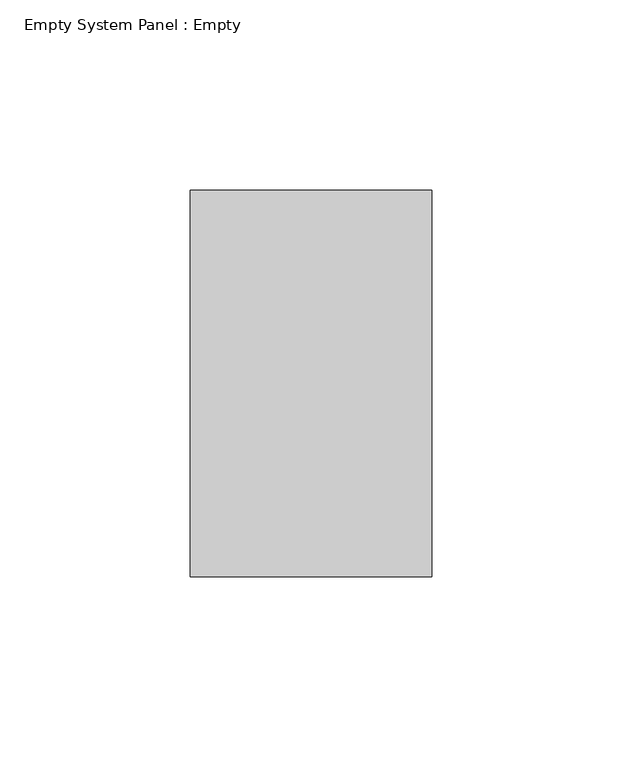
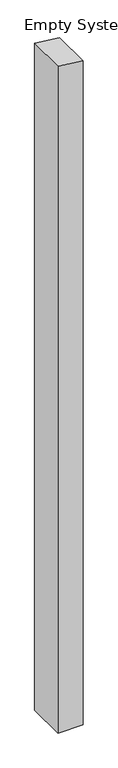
"""IFC4 building model written with IfcOpenShell, lengths in millimetres: plate geometry, Empty System Panel : Empty."""

from ifc_helpers import new_model, si_unit, frame, origin, place, context, project, spatial, polyline, outline, extrude, source, transform, mapped, element, save


def empty_system_panel_empty_bd58be1e(model_context):
    return source(origin(), model_context, "Body", "SweptSolid", [
        extrude(outline(polyline([(0.0, -31.75), (0.0, 31.75), (1778.2767997, 31.75), (1785.3791588, -31.75), (0.0, -31.75)])), frame((0.0, -50.8, 0.0), z_axis=(0.0, 1.0, 0.0), x_axis=(0.0, 0.0, 1.0)), (0.0, 0.0, 1.0), 101.6),
    ])


if __name__ == "__main__":
    model = new_model("IFC4")
    model_context = context("Model", 3, world=origin())
    ifc_project = project(units=[si_unit("LENGTHUNIT", "METRE", prefix="MILLI")], contexts=[model_context])
    site = spatial("IfcSite", under=ifc_project)
    building = spatial("IfcBuilding", under=site)
    placement = place(None, origin())
    empty_system_panel_empty_shape = empty_system_panel_empty_bd58be1e(model_context)
    element("IfcPlate", 1, ObjectType="Empty System Panel : Empty", at=placement, inside=building, context=model_context, shape_type="MappedRepresentation", body=[
        mapped(empty_system_panel_empty_shape, transform((0.0, 0.0, 0.0), x_axis=(1.0, 0.0, 0.0), y_axis=(0.0, 1.0, 0.0), z_axis=(0.0, 0.0, 1.0))),
    ])
    save(model, "model.ifc")
